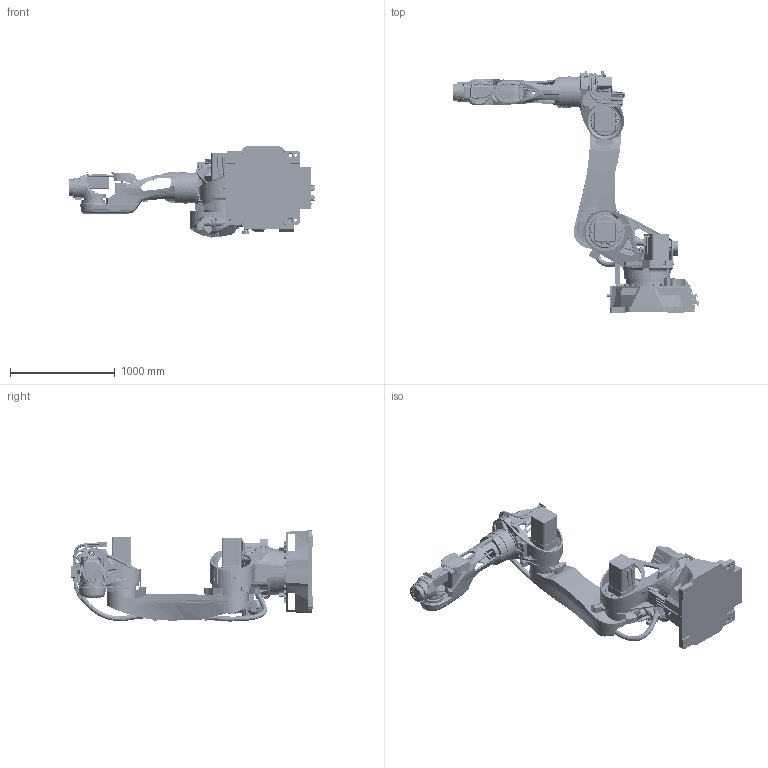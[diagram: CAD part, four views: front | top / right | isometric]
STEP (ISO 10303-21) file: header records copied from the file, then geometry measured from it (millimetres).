
FILE_DESCRIPTION (( 'STEP AP214' ), '1' );
FILE_NAME ('N-220-2.7_x-Lekbir_01.STEP', '2022-04-13T13:51:02', ( '' ), ( '' ), 'SwSTEP 2.0', 'SolidWorks 2020', '' );
FILE_SCHEMA (( 'AUTOMOTIVE_DESIGN' ));
Length unit declared in the file: millimetre
Products named in the file (9): N-220-2.7_x-Lekbir_01; N-220-2.7 Link3; N-220-2.7 Link5; N-220-2.7 Link2; N-220-2.7 Link0; N-220-2.7 Link1-2; N-220-2.7 Link4; N-220-2.7 Link6; N-220-2.7 Link1
Assembly tree (8 placements, depth 2):
  N-220-2.7_x-Lekbir_01
    N-220-2.7 Link0
    N-220-2.7 Link1
    N-220-2.7 Link1-2
    N-220-2.7 Link2
    N-220-2.7 Link3
    N-220-2.7 Link4
    N-220-2.7 Link5
    N-220-2.7 Link6
Bounding box: 2342.18 x 2305 x 869.48 mm (x, y, z)
Volume: 155016469.6 mm3; surface area: 17679428.8 mm2
Topology: 77 solids, 144 shells, 6901 faces, 18058 edges, 11686 vertices
Faces by surface type: plane 2985, cylinder 2229, bspline 1093, cone 481, torus 109, sphere 4
Entity records: 503534 total; most frequent: CARTESIAN_POINT 324538, ORIENTED_EDGE 35966, DIRECTION 29372, EDGE_CURVE 17989, VERTEX_POINT 11684, AXIS2_PLACEMENT_3D 10355, LINE 8662, VECTOR 8662
